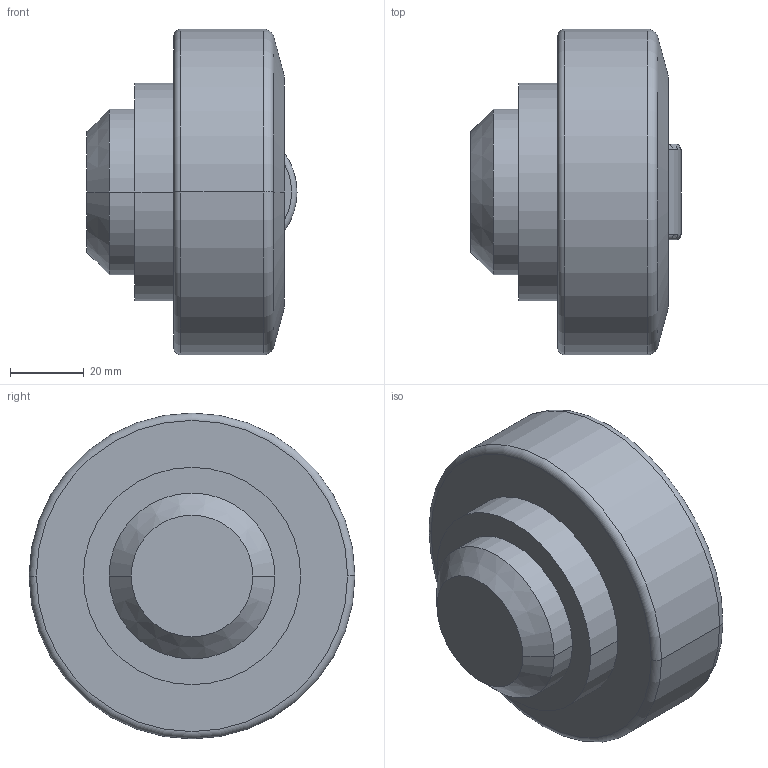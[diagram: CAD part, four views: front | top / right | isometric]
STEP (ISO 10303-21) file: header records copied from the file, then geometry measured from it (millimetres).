
FILE_DESCRIPTION (( 'STEP AP203' ), '1' );
FILE_NAME ('3D40058.STEP', '2002-11-20T09:59:59', ( 'Francesc' ), ( 'propia' ), 'SwSTEP 2.0', 'SolidWorks 2001039', '' );
FILE_SCHEMA (( 'CONFIG_CONTROL_DESIGN' ));
Length unit declared in the file: millimetre
Products named in the file (1): 2
Bounding box: 57 x 88.4 x 88.4 mm (x, y, z)
Volume: 226577 mm3; surface area: 22692.5 mm2
Topology: 1 solids, 1 shells, 23 faces, 46 edges, 28 vertices
Faces by surface type: cylinder 7, torus 6, plane 6, cone 4
Entity records: 729 total; most frequent: CARTESIAN_POINT 154, DIRECTION 118, ORIENTED_EDGE 92, AXIS2_PLACEMENT_3D 52, EDGE_CURVE 46, CIRCLE 28, VERTEX_POINT 28, EDGE_LOOP 26
